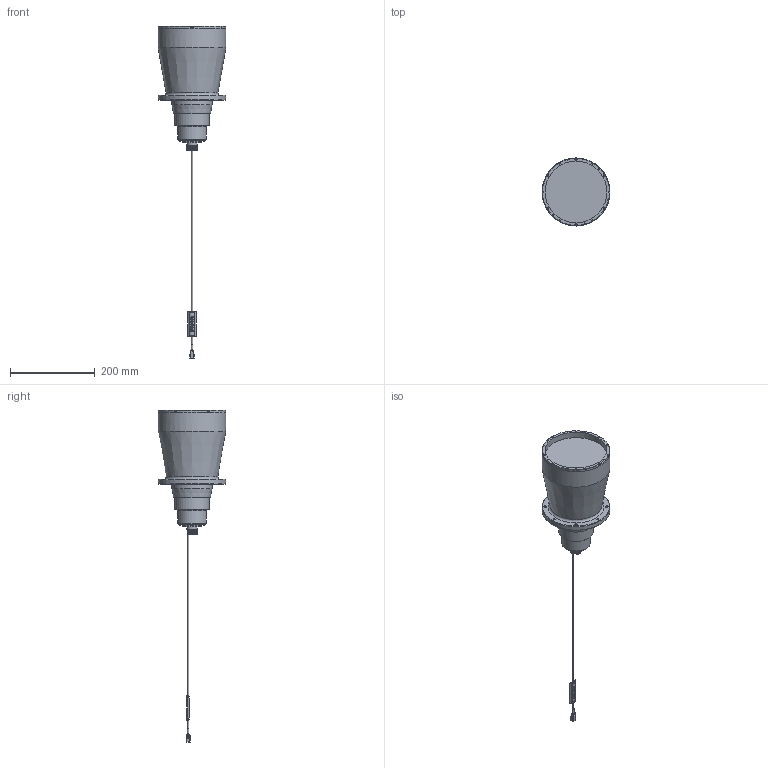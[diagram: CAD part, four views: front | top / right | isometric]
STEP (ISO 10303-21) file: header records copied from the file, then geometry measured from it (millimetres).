
FILE_DESCRIPTION (( 'STEP AP203' ), '1' );
FILE_NAME ('3d_mti-120-cg-070_a001.STEP', '2017-05-25T02:14:17', ( '' ), ( '' ), 'SwSTEP 2.0', 'SolidWorks 2014', '' );
FILE_SCHEMA (( 'CONFIG_CONTROL_DESIGN' ));
Length unit declared in the file: millimetre
Products named in the file (1): 3d_mti-120-cg-070_a001
Bounding box: 160 x 160 x 781.92 mm (x, y, z)
Volume: 3248712.8 mm3; surface area: 174233.6 mm2
Topology: 3 solids, 7 shells, 666 faces, 1767 edges, 1183 vertices
Faces by surface type: plane 416, cylinder 183, cone 39, torus 28
Full cylindrical faces by diameter (mm): 1.5 x6, 2 x14, 2.5 x3, 3.1 x1, 3.4 x4, 3.5 x1, 3.8 x7, 4 x1, 4.2 x4, 4.4 x9, 5.5 x4, 6 x4, 6.5 x4, 8 x8, 24 x1, 44 x1, 45 x1, 64 x1, 68 x1, 82 x1, 95 x1, 145.5 x1, 159.8 x1, 160 x2
Entity records: 22875 total; most frequent: CARTESIAN_POINT 6905, DIRECTION 3275, ORIENTED_EDGE 3122, EDGE_CURVE 1561, AXIS2_PLACEMENT_3D 1211, VERTEX_POINT 1116, EDGE_LOOP 923, LINE 853
